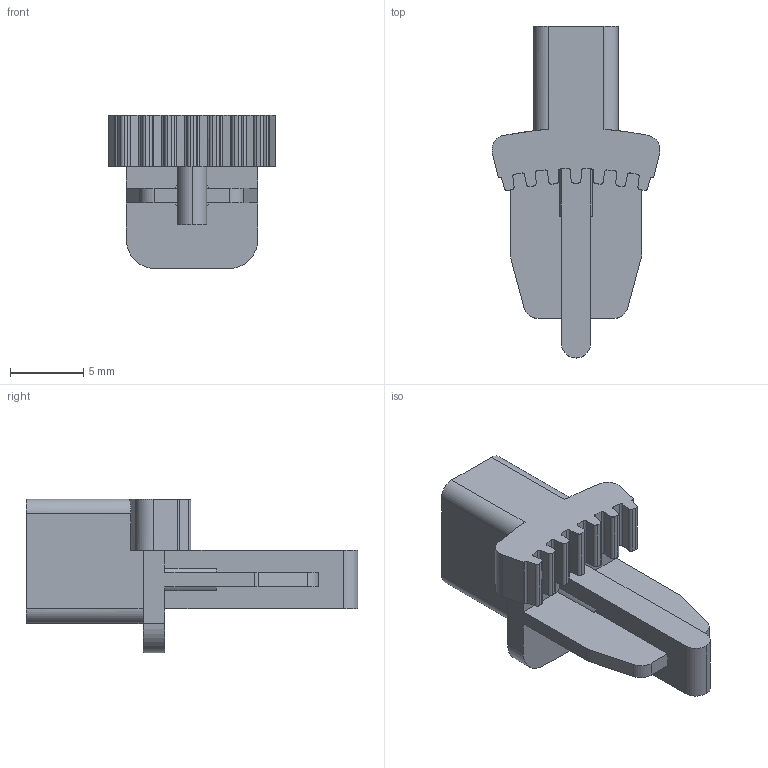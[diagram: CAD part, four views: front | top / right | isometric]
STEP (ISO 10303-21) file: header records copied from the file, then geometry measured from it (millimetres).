
FILE_DESCRIPTION(('CATIA V5 STEP Exchange'),'2;1');
FILE_NAME('G:\够快云库\系统集成开发部\1.部门成员\孙国\3D-stp打印件\20211216\SZP-1216 锁止盘.stp','2021-12-16T06:44:59+00:00',('none'),('none'),'CATIA Version 5 Release 20 GA (IN-10)','CATIA V5 STEP AP214','none');
FILE_SCHEMA(('AUTOMOTIVE_DESIGN { 1 0 10303 214 1 1 1 1 }'));
Length unit declared in the file: millimetre
Products named in the file (1): 锁止盘
Bounding box: 11.48 x 22.7 x 10.5 mm (x, y, z)
Volume: 647.4 mm3; surface area: 936.3 mm2
Topology: 1 solids, 1 shells, 112 faces, 329 edges, 220 vertices
Faces by surface type: cylinder 63, plane 47, extrusion 2
Entity records: 3669 total; most frequent: CARTESIAN_POINT 840, ORIENTED_EDGE 658, DIRECTION 462, EDGE_CURVE 329, VERTEX_POINT 220, VECTOR 189, LINE 187, AXIS2_PLACEMENT_3D 184
